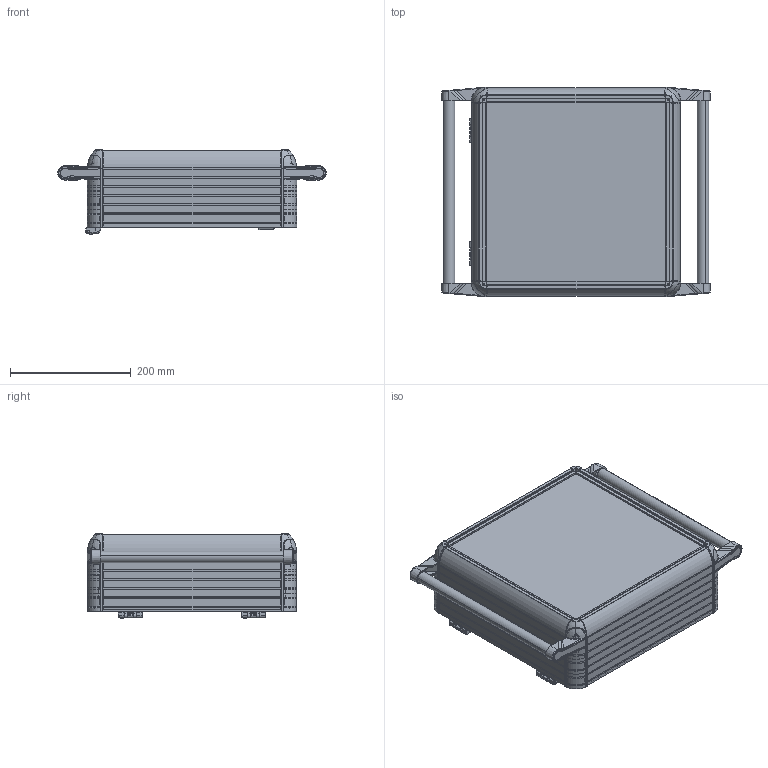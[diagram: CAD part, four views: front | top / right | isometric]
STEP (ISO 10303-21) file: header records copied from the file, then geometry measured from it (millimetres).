
FILE_DESCRIPTION (( 'STEP AP214' ), '1' );
FILE_NAME ('1200-0204.STEP', '2022-09-01T08:02:51', ( '' ), ( '' ), 'SwSTEP 2.0', 'SolidWorks 2022', '' );
FILE_SCHEMA (( 'AUTOMOTIVE_DESIGN' ));
Length unit declared in the file: millimetre
Products named in the file (7): 1200-0204; HPECO-120-001-295_295; 300X300; boru_325; ECO1200-0100(SAÐ); ARKA_KAPAK_300X300; ECO1200-0100(SOL)
Assembly tree (12 placements, depth 2):
  1200-0204
    300X300
    ARKA_KAPAK_300X300
    HPECO-120-001-295_295  x4
    boru_325  x2
    ECO1200-0100(SAÐ)  x2
    ECO1200-0100(SOL)  x2
Bounding box: 444.62 x 347 x 139.15 mm (x, y, z)
Volume: 3031160.3 mm3; surface area: 1054124.5 mm2
Topology: 20 solids, 74 shells, 6953 faces, 18774 edges, 11682 vertices
Faces by surface type: plane 2745, cylinder 1840, bspline 1380, cone 598, torus 344, sphere 46
Entity records: 211013 total; most frequent: CARTESIAN_POINT 57282, ORIENTED_EDGE 24408, DIRECTION 19920, EDGE_CURVE 12204, VERTEX_POINT 7600, AXIS2_PLACEMENT_3D 7238, LINE 5444, VECTOR 5444
